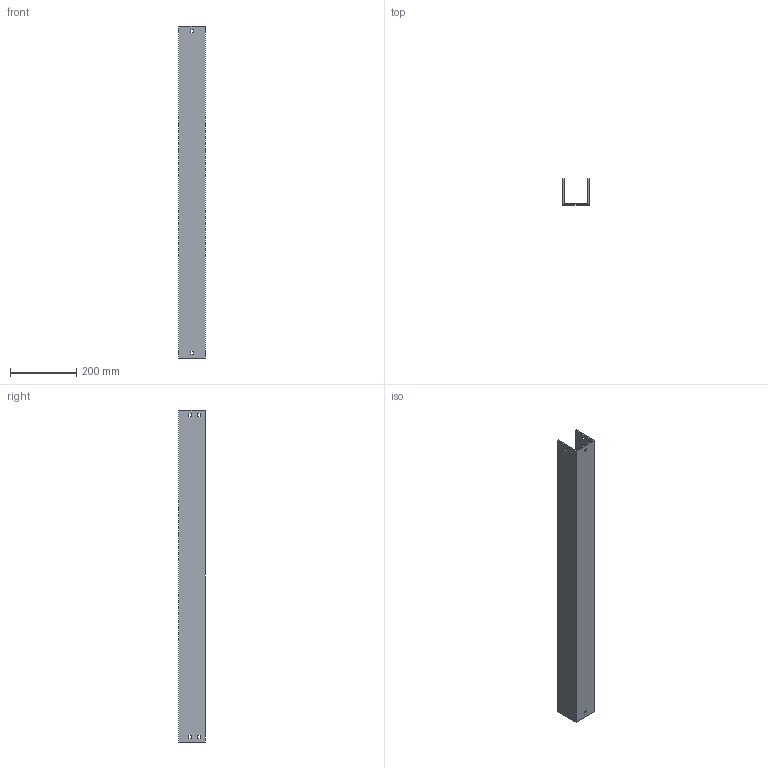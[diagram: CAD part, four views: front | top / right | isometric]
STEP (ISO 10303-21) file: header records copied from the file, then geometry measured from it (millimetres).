
FILE_DESCRIPTION (( 'STEP AP214' ), '1' );
FILE_NAME ('03F1C075.step', '2025-02-21T13:31:08', ( '' ), ( '' ), 'SwSTEP 2.0', 'SolidWorks 2023', '' );
FILE_SCHEMA (( 'AUTOMOTIVE_DESIGN' ));
Length unit declared in the file: millimetre
Products named in the file (1): 03F1C075
Bounding box: 79 x 79 x 1000 mm (x, y, z)
Volume: 802630.5 mm3; surface area: 468425 mm2
Topology: 1 solids, 1 shells, 50 faces, 144 edges, 96 vertices
Faces by surface type: plane 50
Entity records: 1671 total; most frequent: CARTESIAN_POINT 291, ORIENTED_EDGE 288, DIRECTION 246, LINE 144, VECTOR 144, EDGE_CURVE 144, VERTEX_POINT 96, EDGE_LOOP 70
